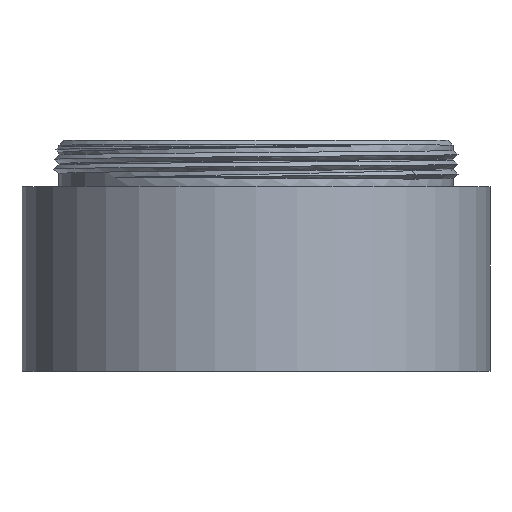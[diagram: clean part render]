
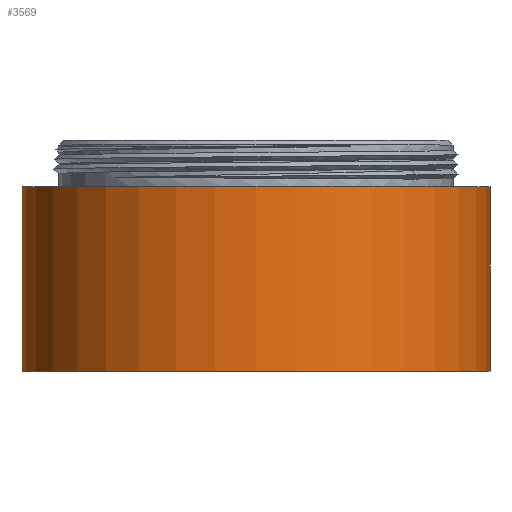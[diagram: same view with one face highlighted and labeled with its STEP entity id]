
A CAD part, top view. The second image highlights one B-rep face of the part: STEP entity #3569.
In plain terms, the highlighted cylindrical face has radius 15.2 mm (diameter 30.4 mm), a partial arc.
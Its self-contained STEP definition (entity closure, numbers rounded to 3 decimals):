
#6=CARTESIAN_POINT('',(0.,0.,0.));
#7=DIRECTION('',(0.,1.,0.));
#8=DIRECTION('',(-1.,0.,0.));
#9=AXIS2_PLACEMENT_3D('',#6,#7,#8);
#58=DIRECTION('',(0.,1.,0.));
#59=VECTOR('',#58,12.);
#60=CARTESIAN_POINT('',(15.2,0.,0.));
#61=LINE('',#60,#59);
#62=DIRECTION('',(0.,1.,0.));
#63=VECTOR('',#62,12.);
#64=CARTESIAN_POINT('',(-15.2,0.,0.));
#65=LINE('',#64,#63);
#71=CARTESIAN_POINT('',(0.,12.,0.));
#72=DIRECTION('',(0.,1.,0.));
#73=DIRECTION('',(-1.,0.,0.));
#74=AXIS2_PLACEMENT_3D('',#71,#72,#73);
#3377=CARTESIAN_POINT('',(15.2,0.,0.));
#3378=CARTESIAN_POINT('',(-15.2,0.,0.));
#3379=VERTEX_POINT('',#3377);
#3380=VERTEX_POINT('',#3378);
#3381=CARTESIAN_POINT('',(15.2,12.,0.));
#3382=CARTESIAN_POINT('',(-15.2,12.,0.));
#3383=VERTEX_POINT('',#3381);
#3384=VERTEX_POINT('',#3382);
#3557=CARTESIAN_POINT('',(0.,0.,0.));
#3558=DIRECTION('',(0.,1.,0.));
#3559=DIRECTION('',(1.,0.,0.));
#3560=AXIS2_PLACEMENT_3D('',#3557,#3558,#3559);
#3561=CYLINDRICAL_SURFACE('',#3560,15.2);
#3562=ORIENTED_EDGE('',*,*,#3529,.F.);
#3563=ORIENTED_EDGE('',*,*,#3552,.T.);
#3565=ORIENTED_EDGE('',*,*,#3564,.T.);
#3566=ORIENTED_EDGE('',*,*,#3548,.F.);
#3567=EDGE_LOOP('',(#3562,#3563,#3565,#3566));
#3568=FACE_OUTER_BOUND('',#3567,.F.);
#3569=ADVANCED_FACE('',(#3568),#3561,.T.);
#10=CIRCLE('',#9,15.2);
#75=CIRCLE('',#74,15.2);
#3529=EDGE_CURVE('',#3380,#3379,#10,.T.);
#3548=EDGE_CURVE('',#3379,#3383,#61,.T.);
#3552=EDGE_CURVE('',#3380,#3384,#65,.T.);
#3564=EDGE_CURVE('',#3384,#3383,#75,.T.);
